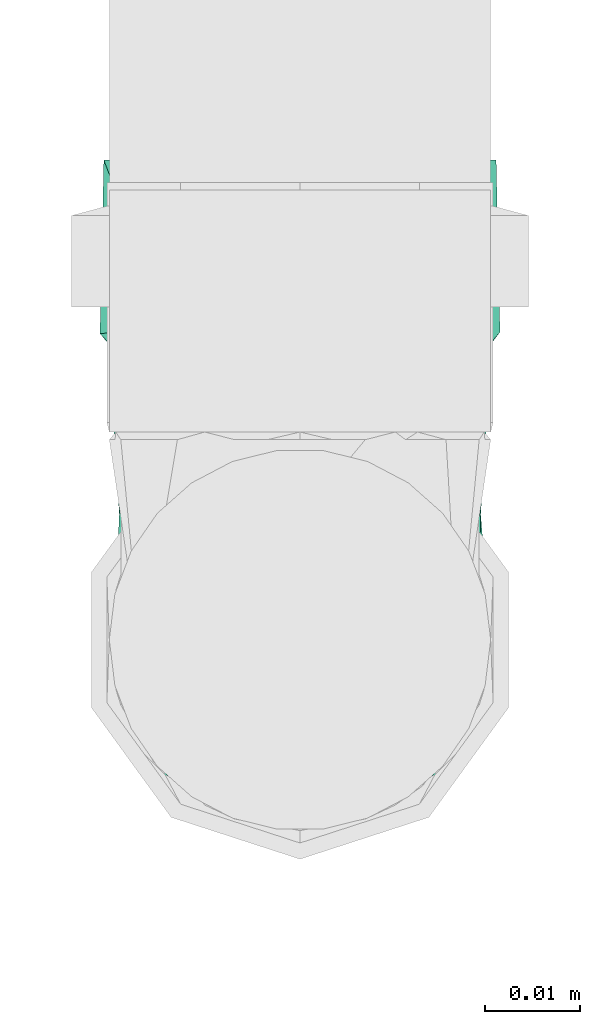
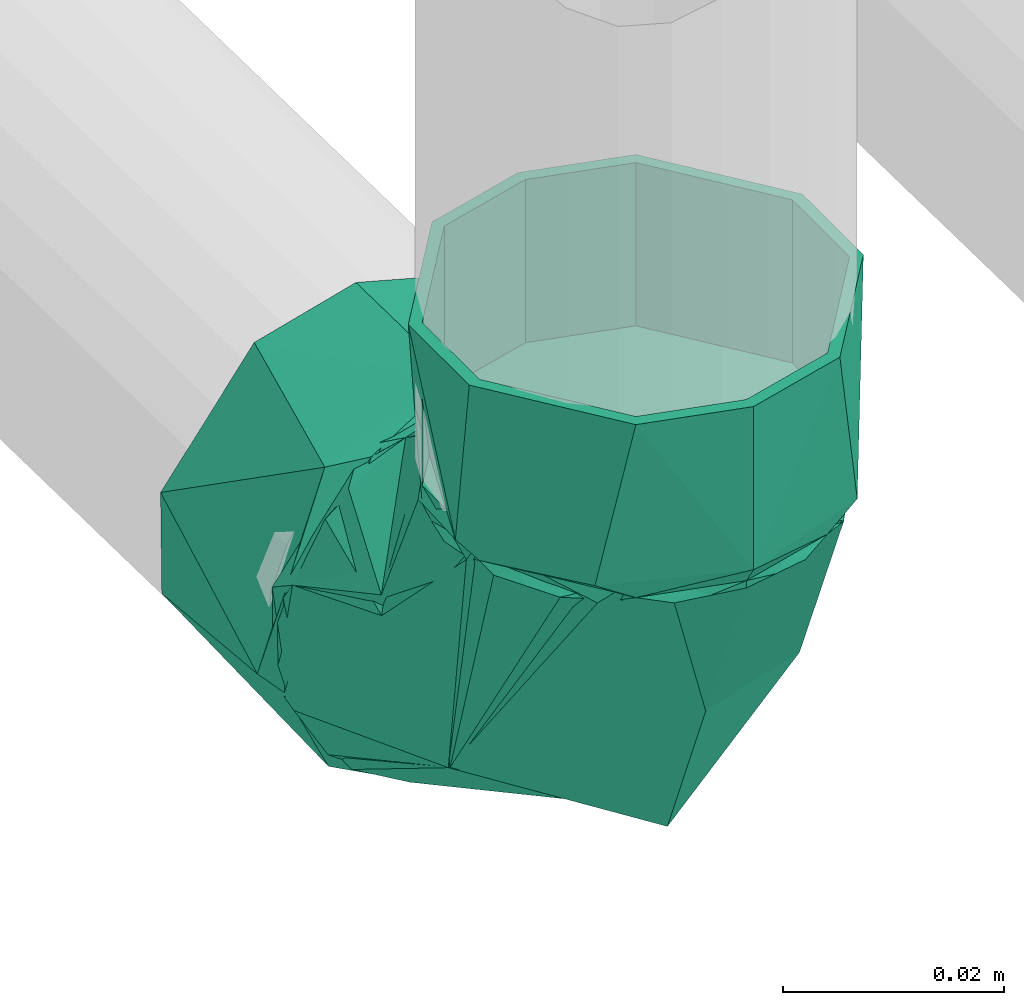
# One storey, part 257 of 589: 1 flow fitting.
"""IFC2X3 building model written with IfcOpenShell, lengths in millimetres."""

from ifc_helpers import new_model, entity, si_unit, converted_unit, derived_unit, direction, frame, origin, place, context, subcontext, project, spatial, faceted_brep, source, transform, mapped, material, type_object, type_shapes, element, save


model = new_model("IFC2X3")

# Units and contexts
model_context = context("Model", 3, precision=0.01, world=origin(), true_north=direction((6.123031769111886e-17, 1.0)))
body_context = subcontext(model_context, "Body", "Model", "MODEL_VIEW")
ifc_project = project(units=[si_unit("LENGTHUNIT", "METRE", prefix="MILLI"), si_unit("AREAUNIT", "SQUARE_METRE"), si_unit("VOLUMEUNIT", "CUBIC_METRE"), converted_unit("PLANEANGLEUNIT", "DEGREE", entity("IfcRatioMeasure", 0.017453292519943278), si_unit("PLANEANGLEUNIT", "RADIAN"), dimensions=[0, 0, 0, 0, 0, 0, 0]), si_unit("MASSUNIT", "GRAM", prefix="KILO"), derived_unit("MASSDENSITYUNIT", [(si_unit("MASSUNIT", "GRAM", prefix="KILO"), 1), (si_unit("LENGTHUNIT", "METRE"), -3)]), derived_unit("IONCONCENTRATIONUNIT", [(si_unit("MASSUNIT", "GRAM", prefix="KILO"), 1), (si_unit("LENGTHUNIT", "METRE"), -3)]), derived_unit("MOMENTOFINERTIAUNIT", [(si_unit("LENGTHUNIT", "METRE"), 4)]), si_unit("TIMEUNIT", "SECOND"), si_unit("FREQUENCYUNIT", "HERTZ"), si_unit("THERMODYNAMICTEMPERATUREUNIT", "DEGREE_CELSIUS"), derived_unit("THERMALTRANSMITTANCEUNIT", [(si_unit("MASSUNIT", "GRAM", prefix="KILO"), 1), (si_unit("THERMODYNAMICTEMPERATUREUNIT", "KELVIN"), -1), (si_unit("TIMEUNIT", "SECOND"), -3)]), derived_unit("THERMALCONDUCTANCEUNIT", [(si_unit("MASSUNIT", "GRAM", prefix="KILO"), 1), (si_unit("THERMODYNAMICTEMPERATUREUNIT", "KELVIN"), -1), (si_unit("TIMEUNIT", "SECOND"), -3), (si_unit("LENGTHUNIT", "METRE"), 1)]), derived_unit("VOLUMETRICFLOWRATEUNIT", [(si_unit("LENGTHUNIT", "METRE"), 3), (si_unit("TIMEUNIT", "SECOND"), -1)]), derived_unit("MASSFLOWRATEUNIT", [(si_unit("MASSUNIT", "GRAM", prefix="KILO"), 1), (si_unit("TIMEUNIT", "SECOND"), -1)]), derived_unit("ROTATIONALFREQUENCYUNIT", [(si_unit("TIMEUNIT", "SECOND"), -1)]), si_unit("ELECTRICCURRENTUNIT", "AMPERE"), si_unit("ELECTRICVOLTAGEUNIT", "VOLT"), si_unit("POWERUNIT", "WATT"), si_unit("FORCEUNIT", "NEWTON", prefix="KILO"), si_unit("ILLUMINANCEUNIT", "LUX"), si_unit("LUMINOUSFLUXUNIT", "LUMEN"), si_unit("LUMINOUSINTENSITYUNIT", "CANDELA"), derived_unit("USERDEFINED", [(si_unit("MASSUNIT", "GRAM", prefix="KILO"), -1), (si_unit("LENGTHUNIT", "METRE"), -2), (si_unit("TIMEUNIT", "SECOND"), 3), (si_unit("LUMINOUSFLUXUNIT", "LUMEN"), 1)]), derived_unit("USERDEFINED", [(si_unit("MASSUNIT", "GRAM", prefix="KILO"), 1), (si_unit("TIMEUNIT", "SECOND"), -3), (si_unit("LENGTHUNIT", "METRE"), 3), (si_unit("ELECTRICCURRENTUNIT", "AMPERE"), -2)]), derived_unit("SOUNDPOWERUNIT", [(si_unit("MASSUNIT", "GRAM", prefix="KILO"), 1), (si_unit("TIMEUNIT", "SECOND"), -3), (si_unit("LENGTHUNIT", "METRE"), 2)]), derived_unit("SOUNDPRESSUREUNIT", [(si_unit("MASSUNIT", "GRAM", prefix="KILO"), 1), (si_unit("LENGTHUNIT", "METRE"), -1), (si_unit("TIMEUNIT", "SECOND"), -2)]), derived_unit("LINEARVELOCITYUNIT", [(si_unit("LENGTHUNIT", "METRE"), 1), (si_unit("TIMEUNIT", "SECOND"), -1)]), si_unit("PRESSUREUNIT", "PASCAL"), derived_unit("USERDEFINED", [(si_unit("MASSUNIT", "GRAM", prefix="KILO"), 1), (si_unit("LENGTHUNIT", "METRE"), -2), (si_unit("TIMEUNIT", "SECOND"), -2)]), derived_unit("LINEARFORCEUNIT", [(si_unit("MASSUNIT", "GRAM", prefix="KILO"), 1), (si_unit("TIMEUNIT", "SECOND"), -2)]), derived_unit("PLANARFORCEUNIT", [(si_unit("MASSUNIT", "GRAM", prefix="KILO"), 1), (si_unit("LENGTHUNIT", "METRE"), -1), (si_unit("TIMEUNIT", "SECOND"), -2)]), derived_unit("SPECIFICHEATCAPACITYUNIT", [(si_unit("THERMODYNAMICTEMPERATUREUNIT", "KELVIN"), -1), (si_unit("LENGTHUNIT", "METRE"), 2), (si_unit("TIMEUNIT", "SECOND"), -2)]), derived_unit("HEATINGVALUEUNIT", [(si_unit("LENGTHUNIT", "METRE"), 2), (si_unit("TIMEUNIT", "SECOND"), -2)]), derived_unit("VAPORPERMEABILITYUNIT", [(si_unit("LENGTHUNIT", "METRE"), -1), (si_unit("TIMEUNIT", "SECOND"), 1)]), derived_unit("DYNAMICVISCOSITYUNIT", [(si_unit("MASSUNIT", "GRAM", prefix="KILO"), 1), (si_unit("TIMEUNIT", "SECOND"), -1), (si_unit("LENGTHUNIT", "METRE"), -1)]), derived_unit("THERMALEXPANSIONCOEFFICIENTUNIT", [(si_unit("THERMODYNAMICTEMPERATUREUNIT", "KELVIN"), -1)]), derived_unit("MODULUSOFELASTICITYUNIT", [(si_unit("MASSUNIT", "GRAM", prefix="KILO"), 1), (si_unit("LENGTHUNIT", "METRE"), -1), (si_unit("TIMEUNIT", "SECOND"), -2)]), derived_unit("ISOTHERMALMOISTURECAPACITYUNIT", [(si_unit("LENGTHUNIT", "METRE"), 3), (si_unit("MASSUNIT", "GRAM", prefix="KILO"), -1)]), derived_unit("MOISTUREDIFFUSIVITYUNIT", [(si_unit("TIMEUNIT", "SECOND"), -1), (si_unit("LENGTHUNIT", "METRE"), 2)])], contexts=[model_context])

# Site, building, storey
site_placement = place(None, origin())
site = spatial("IfcSite", under=ifc_project, at=site_placement, Name="Default", CompositionType="ELEMENT")
building_placement = place(site_placement, origin())
building = spatial("IfcBuilding", under=site, at=building_placement, CompositionType="ELEMENT")
storey_placement = place(building_placement, frame((0.0, 0.0, 100.0)))
storey = spatial("IfcBuildingStorey", under=building, at=storey_placement, Name="TÉRREO", CompositionType="ELEMENT", Elevation=100.0)

# Flow fitting
ifc_material = material(Name="PVC Branco")
pipe_fitting_type = type_object("IfcPipeFittingType", Name="PVC Esgoto_Curva 90° Curta:a. Série Normal", PredefinedType="NOTDEFINED", material=ifc_material)
shared_shape = source(origin(), body_context, "Body", "Brep", [
    faceted_brep([(17.961036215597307, 31.85321923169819, 10.0), (20.63999240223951, 31.79964010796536, 0.0), (17.961036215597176, 31.853219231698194, -10.0), (5.819337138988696, 32.09605321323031, -19.318516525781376), (-4.531354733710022, 32.30306705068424, -19.31851652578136), (-16.67305381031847, 32.545901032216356, -10.0), (-19.352009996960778, 32.59948015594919, 0.0), (-16.673053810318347, 32.54590103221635, 10.0), (-4.531354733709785, 32.303067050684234, 19.318516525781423), (5.819337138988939, 32.096053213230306, 19.318516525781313), (19.378093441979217, 29.02431814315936, 6.84041311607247), (15.905813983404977, 29.093763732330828, 12.855768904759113), (20.584003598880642, 29.000199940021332, 0.0), (7.427001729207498, 29.263339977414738, 18.793865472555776), (0.5880023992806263, 29.40011996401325, 20.0), (-12.265223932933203, 29.657184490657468, 15.320851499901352), (-18.202100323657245, 29.775922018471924, 6.840381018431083), (-19.407998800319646, 29.800039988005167, 0.0), (-6.251109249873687, 29.536902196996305, 18.79382458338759), (-18.202100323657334, 29.775922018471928, -6.840381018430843), (-14.729853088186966, 29.70647707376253, -12.855716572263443), (-6.25110924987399, 29.53690219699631, -18.79382458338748), (0.588002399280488, 29.40011996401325, -20.0), (13.441163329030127, 29.143056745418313, -15.32090639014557), (19.378093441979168, 29.02431814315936, -6.8404131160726), (7.427001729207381, 29.263339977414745, -18.79386547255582), (-11.35075352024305, -12.626805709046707, 0.0), (-29.405999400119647, -18.793848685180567, 6.8404131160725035), (-29.405999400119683, -19.396924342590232, 3.420206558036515), (-29.405999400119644, -20.0, 0.0), (-29.40599940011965, -15.320874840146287, 12.855768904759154), (-29.405999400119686, -17.057361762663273, 9.848091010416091), (-2.3339581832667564, 2.3811033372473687, 18.02101843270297), (-29.40599940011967, -6.840366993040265, 18.793865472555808), (-29.405999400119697, -11.080620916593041, 15.824817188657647), (-29.405999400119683, 0.0, 20.0), (-29.40599940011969, -3.420183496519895, 19.396932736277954), (-12.878045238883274, 13.138181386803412, 18.95216884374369), (12.851249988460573, 11.095996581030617, 0.0), (5.594072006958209, -5.707072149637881, 0.0), (-29.405999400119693, 6.840479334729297, 18.79382458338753), (-29.405999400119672, 3.4202396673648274, 19.396912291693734), (-29.405999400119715, 18.793860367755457, 6.840381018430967), (-29.405999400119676, 15.824828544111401, 11.080616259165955), (-29.405999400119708, 12.855796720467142, 15.320851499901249), (-22.405985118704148, 22.858585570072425, 0.0), (-29.40599940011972, 20.0, 0.0), (-29.405999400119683, 19.396930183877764, 3.4201905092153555), (-29.405999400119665, 9.848138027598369, 17.0573380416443), (-14.138248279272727, 14.423838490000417, -18.24666465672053), (-29.405999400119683, 0.0, -20.0), (-29.40599940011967, 3.4202396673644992, -19.396912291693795), (-29.405999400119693, 6.840479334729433, -18.79382458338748), (-29.405999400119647, -18.79384868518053, -6.840413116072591), (-29.40599940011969, -15.824789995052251, -11.080659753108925), (-29.405999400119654, -12.85573130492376, -15.32090639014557), (-2.333957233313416, 2.3811024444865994, -18.021017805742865), (-29.405999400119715, 18.793860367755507, -6.840381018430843), (-29.405999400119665, 11.080699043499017, -15.824770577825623), (-29.405999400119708, 15.320918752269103, -12.855716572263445), (-29.405999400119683, -19.396924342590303, -3.420206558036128), (-29.405999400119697, -9.848049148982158, -17.0573859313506), (-29.40599940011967, -6.840366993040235, -18.79386547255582), (-29.40599940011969, -3.420183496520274, -19.396932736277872), (-29.405999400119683, 19.39693018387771, -3.4201905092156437), (-29.405999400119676, 17.05738956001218, -9.848048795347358), (-30.20599940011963, -8.21241269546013, -16.988887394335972), (-30.20599940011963, -11.248444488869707, -14.659258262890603), (-30.20599940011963, -14.28447628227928, -12.329629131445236), (-30.20599940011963, -17.320508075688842, -10.0), (-30.20599940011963, -18.66025403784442, -5.0), (-30.20599940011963, -20.0, 0.0), (-30.20599940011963, -18.660254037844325, 5.0), (-30.20599940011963, -17.320508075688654, 10.0), (-30.20599940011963, -14.284476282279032, 12.329629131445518), (-30.20599940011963, -11.248444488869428, 14.659258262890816), (-30.20599940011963, -8.21241269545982, 16.988887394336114), (-30.20599940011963, -5.1763809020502, 19.318516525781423), (-30.20599940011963, 0.0, 19.31851652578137), (-30.20599940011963, 5.176380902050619, 19.318516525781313), (-30.20599940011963, 8.21241269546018, 16.98888739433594), (-30.20599940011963, 11.248444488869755, 14.65925826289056), (-30.205999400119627, 14.284476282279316, 12.329629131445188), (-30.20599940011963, 17.320508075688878, 10.0), (-30.20599940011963, 18.66025403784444, 5.0), (-30.20599940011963, 20.0, 0.0), (-30.20599940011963, 18.66025403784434, -5.0), (-30.20599940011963, 17.32050807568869, -10.0), (-30.20599940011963, 14.284476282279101, -12.329629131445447), (-30.20599940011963, 11.24844448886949, -14.659258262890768), (-30.20599940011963, 8.212412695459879, -16.988887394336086), (-30.20599940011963, 5.1763809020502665, -19.318516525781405), (-30.20599940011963, 0.0, -19.318516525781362), (-30.20599940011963, -5.176380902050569, -19.318516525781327)], [[[0, 1, 2, 3, 4, 5, 6, 7, 8, 9]], [[10, 1, 0]], [[11, 0, 9]], [[12, 1, 10]], [[11, 10, 0]], [[13, 11, 9]], [[9, 14, 13]], [[15, 8, 7]], [[7, 6, 16]], [[17, 16, 6]], [[14, 8, 18]], [[15, 18, 8]], [[16, 15, 7]], [[8, 14, 9]], [[19, 6, 5]], [[20, 5, 4]], [[17, 6, 19]], [[20, 19, 5]], [[21, 20, 4]], [[4, 22, 21]], [[23, 3, 2]], [[2, 1, 24]], [[12, 24, 1]], [[22, 3, 25]], [[23, 25, 3]], [[24, 23, 2]], [[3, 22, 4]], [[26, 27, 28, 29]], [[26, 30, 31, 27]], [[32, 33, 34, 30]], [[32, 35, 36, 33]], [[35, 32, 37]], [[11, 38, 10]], [[26, 32, 30]], [[32, 39, 38]], [[37, 40, 41, 35]], [[37, 42, 43, 44]], [[45, 46, 47, 42]], [[16, 45, 42]], [[37, 44, 48, 40]], [[39, 32, 26]], [[14, 18, 37]], [[32, 11, 13]], [[14, 37, 32]], [[32, 38, 11]], [[12, 10, 38]], [[45, 16, 17]], [[37, 15, 16]], [[37, 16, 42]], [[15, 37, 18]], [[32, 13, 14]], [[49, 50, 51, 52]], [[49, 21, 22]], [[26, 53, 54, 55]], [[56, 39, 26]], [[49, 57, 19]], [[49, 52, 58, 59]], [[56, 50, 49]], [[26, 29, 60, 53]], [[56, 55, 61, 62]], [[56, 62, 63, 50]], [[26, 55, 56]], [[45, 57, 64, 46]], [[45, 17, 19]], [[24, 12, 38]], [[23, 56, 25]], [[49, 20, 21]], [[49, 19, 20]], [[56, 49, 22]], [[56, 23, 38]], [[49, 59, 65, 57]], [[38, 39, 56]], [[24, 38, 23]], [[56, 22, 25]], [[19, 57, 45]], [[66, 67, 68, 69, 70, 71, 72, 73, 74, 75, 76, 77, 78, 79, 80, 81, 82, 83, 84, 85, 86, 87, 88, 89, 90, 91, 92, 93]], [[47, 46, 85]], [[33, 77, 76]], [[80, 40, 48]], [[48, 44, 81]], [[33, 76, 34]], [[81, 80, 48]], [[84, 83, 42]], [[82, 81, 44]], [[73, 72, 27]], [[85, 84, 47]], [[78, 41, 79]], [[77, 36, 78]], [[30, 75, 74, 73]], [[73, 27, 31, 30]], [[77, 33, 36]], [[71, 28, 72]], [[44, 43, 82]], [[36, 35, 78]], [[41, 40, 79]], [[34, 76, 75]], [[43, 42, 83]], [[75, 30, 34]], [[41, 78, 35]], [[84, 42, 47]], [[80, 79, 40]], [[43, 83, 82]], [[28, 71, 29]], [[28, 27, 72]], [[60, 29, 71]], [[52, 91, 90]], [[66, 62, 61]], [[61, 55, 67]], [[52, 90, 58]], [[67, 66, 61]], [[70, 69, 53]], [[68, 67, 55]], [[87, 86, 57]], [[71, 70, 60]], [[92, 63, 93]], [[91, 51, 92]], [[59, 89, 88, 87]], [[87, 57, 65, 59]], [[91, 52, 51]], [[85, 64, 86]], [[55, 54, 68]], [[51, 50, 92]], [[63, 62, 93]], [[90, 89, 58]], [[54, 53, 69]], [[89, 59, 58]], [[63, 92, 50]], [[70, 53, 60]], [[66, 93, 62]], [[54, 69, 68]], [[64, 85, 46]], [[64, 57, 86]]]),
    faceted_brep([(-32.20599940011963, -17.320508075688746, -10.0), (-32.20599940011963, -20.0, 0.0), (-32.20599940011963, -17.320508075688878, 10.0), (-32.20599940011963, -5.176380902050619, 19.318516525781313), (-32.20599940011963, 5.1763809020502, 19.318516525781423), (-32.20599940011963, 17.320508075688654, 10.0), (-32.20599940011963, 20.0, 0.0), (-32.20599940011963, 17.320508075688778, -10.0), (-32.20599940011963, 5.17638090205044, -19.31851652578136), (-32.20599940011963, -5.176380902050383, -19.318516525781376), (-29.40599940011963, -20.0, 0.0), (-29.40599940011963, -15.320920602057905, 12.855714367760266), (-29.40599940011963, 3.4728419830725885, 19.696176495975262), (-29.40599940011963, 15.320777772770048, 12.855884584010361), (-29.40599940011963, 20.0, 0.0), (-29.40599940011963, 15.320777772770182, -12.855884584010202), (-29.405999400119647, 5.923858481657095, -16.27601124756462), (-29.40599940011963, -3.473060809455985, -19.69613791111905), (-29.40599940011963, -15.320920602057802, -12.855714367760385), (12.85124998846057, 11.095996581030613, 0.0), (19.378093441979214, 29.024318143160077, 6.8404131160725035), (16.409628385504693, 29.083687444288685, 11.080659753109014), (13.441163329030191, 29.143056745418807, 15.320906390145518), (5.594072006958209, -5.707072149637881, 0.0), (-3.0189256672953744, 1.4413580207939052, 17.919138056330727), (-11.350753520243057, -12.626805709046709, 0.0), (-13.807968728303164, 12.593198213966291, 18.87014454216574), (-6.251109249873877, 29.53690219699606, 18.793824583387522), (-10.490481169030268, 29.621689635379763, 15.824770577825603), (-14.729853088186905, 29.70647707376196, 12.855716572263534), (-22.405985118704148, 22.858585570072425, 0.0), (-18.20210032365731, 29.775922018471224, 6.84038101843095), (-18.805049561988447, 29.787981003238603, 3.4201905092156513), (-19.407998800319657, 29.80003998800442, 0.0), (7.427001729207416, 29.26333997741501, 18.793865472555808), (4.007502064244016, 29.331729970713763, 19.396932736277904), (0.5880023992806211, 29.400119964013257, 20.0), (10.434082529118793, 29.203198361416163, 17.057385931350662), (20.58400359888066, 29.000199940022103, 0.0), (19.981048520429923, 29.012259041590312, 3.420206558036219), (-2.8315534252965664, 29.46851108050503, 19.396912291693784), (-16.465976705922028, 29.74119954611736, 9.84804879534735), (-12.878069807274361, 13.13814230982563, -18.95217245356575), (-12.265223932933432, 29.657184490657, -15.32085149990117), (-9.258166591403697, 29.59704334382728, -17.057338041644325), (-6.251109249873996, 29.53690219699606, -18.79382458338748), (-18.202100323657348, 29.775922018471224, -6.840381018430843), (-2.142006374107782, 2.6554433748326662, -18.049846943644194), (-18.80504956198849, 29.787981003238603, -3.4201905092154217), (-15.233662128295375, 29.716553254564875, -11.080616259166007), (19.378093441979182, 29.02431814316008, -6.840413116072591), (19.981048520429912, 29.012259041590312, -3.4202065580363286), (0.5880023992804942, 29.400119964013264, -20.0), (4.0075020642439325, 29.331729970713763, -19.396932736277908), (7.427001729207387, 29.26333997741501, -18.79386547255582), (11.666407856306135, 29.178551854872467, -15.824817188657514), (15.905813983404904, 29.09376373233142, -12.855768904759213), (17.64195371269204, 29.05904093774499, -9.8480910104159), (-2.831553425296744, 29.46851108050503, -19.39691229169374), (-4.571346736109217, 30.303466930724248, -19.31851652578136), (-7.60677150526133, 30.364175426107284, -16.988887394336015), (-10.64219627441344, 30.424883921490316, -14.659258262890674), (-13.677621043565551, 30.48559241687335, -12.329629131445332), (-16.713045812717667, 30.54630091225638, -10.0), (-18.052523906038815, 30.573090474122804, -5.0), (-19.392001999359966, 30.599880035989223, 0.0), (-18.052523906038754, 30.573090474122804, 5.0), (-16.71304581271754, 30.54630091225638, 10.0), (-13.67762104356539, 30.48559241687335, 12.329629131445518), (-10.642196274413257, 30.424883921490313, 14.659258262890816), (-7.606771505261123, 30.364175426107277, 16.988887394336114), (-4.571346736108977, 30.303466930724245, 19.318516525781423), (0.6039992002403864, 30.199960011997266, 19.31851652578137), (5.779345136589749, 30.096453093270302, 19.318516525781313), (8.814769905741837, 30.035744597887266, 16.98888739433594), (11.85019467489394, 29.975036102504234, 14.65925826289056), (14.885619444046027, 29.9143276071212, 12.329629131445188), (17.92104421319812, 29.853619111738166, 10.0), (19.26052230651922, 29.82682954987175, 5.0), (20.60000039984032, 29.80003998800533, 0.0), (19.260522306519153, 29.82682954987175, -5.0), (17.921044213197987, 29.85361911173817, -10.0), (14.885619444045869, 29.914327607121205, -12.329629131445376), (11.850194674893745, 29.975036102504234, -14.659258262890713), (8.814769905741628, 30.03574459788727, -16.988887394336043), (5.779345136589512, 30.096453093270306, -19.318516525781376), (0.6039992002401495, 30.199960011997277, -19.31851652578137)], [[[0, 1, 2, 3, 4, 5, 6, 7, 8, 9]], [[10, 11, 2]], [[10, 2, 1]], [[2, 11, 3]], [[11, 12, 3]], [[4, 12, 13]], [[5, 13, 14]], [[13, 5, 4]], [[5, 14, 6]], [[12, 4, 3]], [[14, 15, 7]], [[14, 7, 6]], [[7, 15, 8]], [[8, 15, 16, 17]], [[9, 17, 18]], [[0, 18, 10]], [[18, 0, 9]], [[0, 10, 1]], [[17, 9, 8]], [[19, 20, 21, 22]], [[23, 24, 25]], [[26, 13, 12]], [[25, 24, 11]], [[24, 23, 19]], [[26, 27, 28, 29]], [[14, 13, 30]], [[11, 10, 25]], [[30, 31, 32, 33]], [[31, 30, 13]], [[24, 34, 35, 36]], [[24, 26, 12]], [[24, 22, 37, 34]], [[11, 24, 12]], [[19, 38, 39, 20]], [[26, 36, 40, 27]], [[13, 29, 41, 31]], [[13, 26, 29]], [[36, 26, 24]], [[22, 24, 19]], [[15, 14, 30]], [[42, 43, 44, 45]], [[15, 30, 46]], [[16, 15, 42, 17]], [[47, 25, 18]], [[47, 18, 17]], [[42, 15, 46]], [[30, 33, 48, 46]], [[42, 46, 49, 43]], [[19, 50, 51, 38]], [[47, 52, 53, 54]], [[47, 54, 55, 56]], [[42, 52, 47]], [[19, 56, 57, 50]], [[25, 47, 23]], [[19, 23, 47]], [[25, 10, 18]], [[19, 47, 56]], [[17, 42, 47]], [[42, 45, 58, 52]], [[59, 60, 61, 62, 63, 64, 65, 66, 67, 68, 69, 70, 71, 72, 73, 74, 75, 76, 77, 78, 79, 80, 81, 82, 83, 84, 85, 86]], [[39, 38, 79]], [[21, 77, 76]], [[74, 34, 37]], [[37, 22, 75]], [[79, 78, 39]], [[75, 74, 37]], [[74, 73, 34]], [[76, 75, 22]], [[22, 21, 76]], [[78, 77, 20]], [[72, 35, 73]], [[27, 70, 28]], [[29, 69, 68, 67]], [[67, 31, 41, 29]], [[71, 27, 40]], [[65, 32, 66]], [[71, 40, 72]], [[40, 36, 72]], [[67, 66, 31]], [[28, 70, 69]], [[35, 34, 73]], [[69, 29, 28]], [[35, 72, 36]], [[78, 20, 39]], [[21, 20, 77]], [[27, 71, 70]], [[32, 65, 33]], [[32, 31, 66]], [[48, 33, 65]], [[54, 85, 84]], [[60, 45, 44]], [[44, 43, 61]], [[54, 84, 55]], [[61, 60, 44]], [[64, 63, 46]], [[62, 61, 43]], [[81, 80, 50]], [[65, 64, 48]], [[86, 58, 59]], [[85, 53, 86]], [[56, 83, 82, 81]], [[81, 50, 57, 56]], [[85, 54, 53]], [[79, 51, 80]], [[43, 49, 62]], [[53, 52, 86]], [[58, 45, 59]], [[55, 84, 83]], [[49, 46, 63]], [[83, 56, 55]], [[58, 86, 52]], [[64, 46, 48]], [[60, 59, 45]], [[49, 63, 62]], [[51, 79, 38]], [[51, 50, 80]]]),
    faceted_brep([(5.819337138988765, 32.09605321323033, 19.31851652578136), (17.961036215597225, 31.853219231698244, 10.0), (20.63999240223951, 31.799640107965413, 0.0), (17.96103621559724, 31.853219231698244, -10.0), (5.8193371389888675, 32.09605321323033, -19.318516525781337), (-4.531354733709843, 32.30306705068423, -19.31851652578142), (-16.67305381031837, 32.54590103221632, -10.0), (-19.352009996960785, 32.59948015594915, 0.0), (-16.673053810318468, 32.54590103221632, 10.0), (-4.531354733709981, 32.303067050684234, 19.318516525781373), (-4.571346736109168, 30.303466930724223, 19.318516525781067), (-16.713045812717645, 30.54630091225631, 10.0), (-19.39200199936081, 30.599880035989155, 0.0), (-16.713045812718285, 30.546300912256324, -10.0), (-4.571346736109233, 30.303466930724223, -19.318516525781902), (5.779345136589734, 30.096453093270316, -19.31851652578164), (17.92104421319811, 29.853619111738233, -10.0), (20.60000039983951, 29.800039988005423, 0.0), (17.92104421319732, 29.853619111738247, 10.0), (5.779345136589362, 30.096453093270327, 19.31851652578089), (16.960145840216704, 31.873237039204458, -13.688192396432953), (21.93973248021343, 31.77364530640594, 0.0), (4.344880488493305, 32.12554234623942, -20.97588948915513), (-20.651750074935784, 32.625474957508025, 0.0), (-15.668729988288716, 32.52581455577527, -13.692285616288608), (-5.661924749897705, 32.32567845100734, -17.33408755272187), (-15.668729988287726, 32.52581455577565, 13.69228561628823), (-3.0516373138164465, 32.27347270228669, 20.976817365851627), (16.960145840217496, 31.87323703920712, 13.688192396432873), (6.954254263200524, 32.073354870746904, 17.332504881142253), (-4.507824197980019, 50.30619608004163, -20.574220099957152), (-4.171426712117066, 50.29946813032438, -19.318516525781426), (6.1792651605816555, 50.09245429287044, -19.318516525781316), (-17.438733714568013, 50.56481427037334, -10.649999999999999), (6.515662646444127, 50.0857263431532, -20.57422009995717), (-16.31312578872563, 50.54230211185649, -10.0), (-18.99208197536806, 50.59588123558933, 0.0), (-20.29182205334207, 50.62187603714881, 0.0), (-16.313125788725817, 50.54230211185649, 10.0), (-17.438733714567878, 50.56481427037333, 10.650000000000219), (-4.1714267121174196, 50.29946813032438, 19.318516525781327), (-4.5078241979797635, 50.30619608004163, 20.574220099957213), (6.179265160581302, 50.09245429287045, 19.3185165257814), (6.515662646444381, 50.08572634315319, 20.574220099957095), (18.320964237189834, 49.84962031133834, 10.0), (19.446572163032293, 49.827108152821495, 10.649999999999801), (22.299660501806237, 49.770046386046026, 0.0), (20.99992042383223, 49.796041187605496, 0.0), (19.44657216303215, 49.8271081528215, -10.650000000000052), (18.320964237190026, 49.84962031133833, -10.0)], [[[0, 1, 2, 3, 4, 5, 6, 7, 8, 9]], [[10, 11, 12, 13, 14, 15, 16, 17, 18, 19]], [[16, 15, 20]], [[17, 16, 21]], [[21, 16, 20]], [[15, 22, 20]], [[23, 13, 12]], [[24, 14, 13]], [[15, 14, 22]], [[23, 24, 13]], [[25, 22, 14, 24]], [[11, 10, 26]], [[12, 11, 23]], [[23, 11, 26]], [[10, 27, 26]], [[21, 18, 17]], [[28, 19, 18]], [[10, 19, 27]], [[21, 28, 18]], [[29, 27, 19, 28]], [[30, 31, 32]], [[31, 30, 33]], [[32, 34, 30]], [[33, 35, 31]], [[33, 36, 35]], [[36, 33, 37]], [[38, 36, 37]], [[38, 37, 39]], [[39, 40, 38]], [[39, 41, 40]], [[40, 41, 42]], [[43, 42, 41]], [[43, 44, 42]], [[44, 43, 45]], [[46, 44, 45]], [[47, 44, 46]], [[48, 47, 46]], [[48, 49, 47]], [[49, 48, 34]], [[34, 32, 49]], [[46, 45, 21]], [[45, 28, 21]], [[28, 45, 43]], [[43, 27, 29, 28]], [[26, 41, 39]], [[23, 39, 37]], [[41, 26, 27]], [[26, 39, 23]], [[41, 27, 43]], [[37, 33, 23]], [[33, 24, 23]], [[24, 33, 30]], [[30, 22, 25, 24]], [[20, 34, 48]], [[21, 48, 46]], [[34, 20, 22]], [[20, 48, 21]], [[34, 22, 30]], [[3, 2, 47, 49]], [[4, 3, 49, 32]], [[32, 31, 5, 4]], [[6, 5, 31, 35]], [[7, 6, 35, 36]], [[8, 7, 36, 38]], [[9, 8, 38, 40]], [[40, 42, 0, 9]], [[1, 0, 42, 44]], [[2, 1, 44, 47]]]),
    faceted_brep([(-50.20599940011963, -5.512845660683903, -20.574220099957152), (-50.20599940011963, -5.176380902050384, -19.318516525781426), (-50.20599940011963, 5.176380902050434, -19.318516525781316), (-50.20599940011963, -18.446341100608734, -10.649999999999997), (-50.20599940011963, 5.512845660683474, -20.57422009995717), (-50.20599940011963, -17.320508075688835, -10.0), (-50.20599940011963, -20.0, 0.0), (-50.20599940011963, -21.300000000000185, 0.0), (-50.20599940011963, -17.320508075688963, 10.0), (-50.20599940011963, -18.4463411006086, 10.650000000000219), (-50.20599940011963, -5.176380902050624, 19.318516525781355), (-50.20599940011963, -5.512845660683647, 20.574220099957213), (-50.20599940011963, 5.176380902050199, 19.318516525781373), (-50.20599940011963, 5.512845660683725, 20.574220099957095), (-50.20599940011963, 17.320508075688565, 10.0), (-50.20599940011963, 18.44634110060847, 10.649999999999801), (-50.20599940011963, 21.299999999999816, 0.0), (-50.20599940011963, 20.0, 0.0), (-50.20599940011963, 18.446341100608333, -10.650000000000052), (-50.20599940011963, 17.320508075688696, -10.0), (-32.20599940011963, 21.299999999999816, 0.0), (-32.205999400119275, 16.319417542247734, 13.688192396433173), (-32.205999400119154, 3.701629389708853, 20.975889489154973), (-32.20599940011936, -16.315983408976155, 13.692285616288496), (-32.20599940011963, -21.300000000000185, 0.0), (-32.20599940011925, -6.307177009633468, 17.334087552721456), (-32.20599940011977, -16.31598340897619, -13.692285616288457), (-32.20599940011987, -3.6963675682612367, -20.976817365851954), (-32.2059994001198, 16.319417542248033, -13.688192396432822), (-32.20599940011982, 6.311524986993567, -17.332504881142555), (-32.20599940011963, -5.176380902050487, 19.31851652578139), (-32.20599940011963, 5.176380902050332, 19.318516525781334), (-32.20599940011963, 17.320508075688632, 10.0), (-32.20599940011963, 20.0, 0.0), (-32.20599940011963, 17.320508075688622, -10.0), (-32.20599940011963, 5.176380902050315, -19.318516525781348), (-32.20599940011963, -5.1763809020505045, -19.318516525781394), (-32.20599940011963, -17.3205080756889, -10.0), (-32.20599940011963, -20.0, 0.0), (-32.20599940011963, -17.32050807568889, 10.0), (-30.20599940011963, -5.176380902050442, 19.31851652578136), (-30.20599940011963, -17.320508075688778, 10.0), (-30.20599940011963, -20.0, 0.0), (-30.20599940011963, -17.320508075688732, -10.0), (-30.20599940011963, -5.176380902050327, -19.318516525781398), (-30.20599940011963, 5.176380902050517, -19.318516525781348), (-30.20599940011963, 17.320508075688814, -10.0), (-30.20599940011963, 20.0, 0.0), (-30.20599940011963, 17.320508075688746, 10.0), (-30.20599940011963, 5.176380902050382, 19.318516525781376)], [[[0, 1, 2]], [[1, 0, 3]], [[2, 4, 0]], [[3, 5, 1]], [[3, 6, 5]], [[6, 3, 7]], [[8, 6, 7]], [[8, 7, 9]], [[9, 10, 8]], [[9, 11, 10]], [[10, 11, 12]], [[13, 12, 11]], [[13, 14, 12]], [[14, 13, 15]], [[16, 14, 15]], [[17, 14, 16]], [[18, 17, 16]], [[18, 19, 17]], [[19, 18, 4]], [[4, 2, 19]], [[16, 15, 20]], [[15, 21, 20]], [[21, 15, 13]], [[21, 13, 22]], [[23, 11, 9]], [[24, 9, 7]], [[11, 23, 25, 22]], [[23, 9, 24]], [[11, 22, 13]], [[7, 3, 24]], [[3, 26, 24]], [[26, 3, 0]], [[26, 0, 27]], [[28, 4, 18]], [[20, 18, 16]], [[4, 28, 29, 27]], [[28, 18, 20]], [[4, 27, 0]], [[30, 31, 32, 33, 34, 35, 36, 37, 38, 39]], [[40, 41, 42, 43, 44, 45, 46, 47, 48, 49]], [[45, 28, 46]], [[47, 46, 20]], [[20, 46, 28]], [[27, 45, 44]], [[26, 44, 43]], [[24, 43, 42]], [[45, 27, 29, 28]], [[26, 27, 44]], [[24, 26, 43]], [[40, 23, 41]], [[42, 41, 24]], [[24, 41, 23]], [[22, 40, 49]], [[21, 49, 48]], [[20, 48, 47]], [[40, 22, 25, 23]], [[21, 22, 49]], [[20, 21, 48]], [[34, 33, 17, 19]], [[35, 34, 19, 2]], [[2, 1, 36, 35]], [[37, 36, 1, 5]], [[38, 37, 5, 6]], [[39, 38, 6, 8]], [[30, 39, 8, 10]], [[10, 12, 31, 30]], [[32, 31, 12, 14]], [[33, 32, 14, 17]]]),
])
type_shapes(pipe_fitting_type, [shared_shape])
flow_fitting_placement = place(storey_placement, frame((2609.484498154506, 3097.4581166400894, -181.9178644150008), z_axis=(1.0, 0.0, 0.0), x_axis=(0.0, 0.0, -1.0)))
element("IfcFlowFitting", 1, at=flow_fitting_placement, inside=storey, type_object=pipe_fitting_type, material=ifc_material, Name="PVC Esgoto_Curva 90° Curta:a. Série Normal", ObjectType="PVC Esgoto_Curva 90° Curta:a. Série Normal", context=body_context, shape_type="MappedRepresentation", body=[
    mapped(shared_shape, transform((0.0, 0.0, 0.0), scale=1.0)),
])

save(model, "model.ifc")
